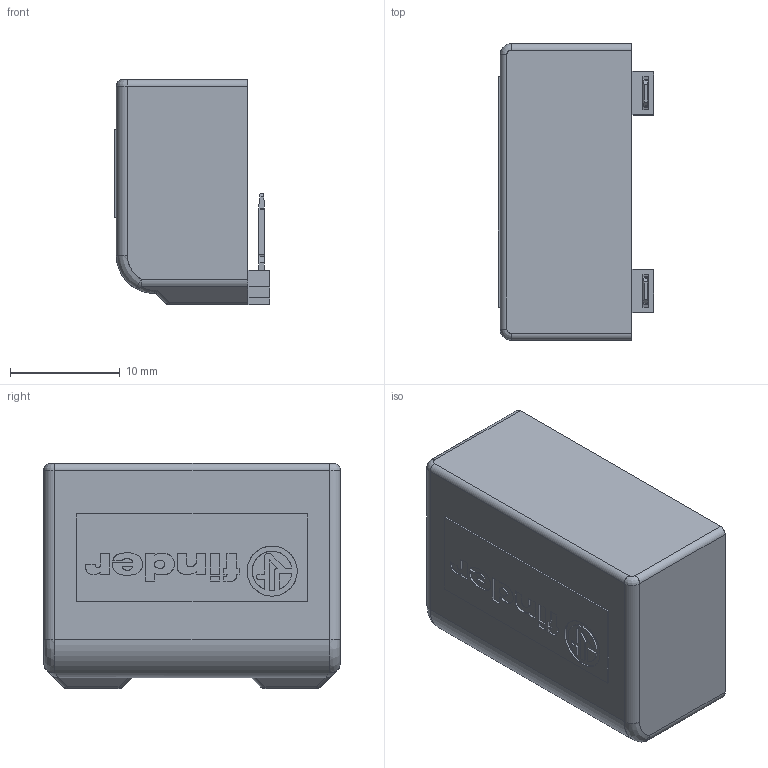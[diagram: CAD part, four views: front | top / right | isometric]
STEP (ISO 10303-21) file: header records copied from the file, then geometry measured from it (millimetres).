
FILE_DESCRIPTION(('STEP AP214'),'2;1');
FILE_NAME('Modulino 27_00 --- skin.stp','2010-06-01T11:59:52',(''),(''),'2007.1.106','THINKDESIGN','');
FILE_SCHEMA(('AUTOMOTIVE_DESIGN'));
Length unit declared in the file: millimetre
Products named in the file (1): None
Bounding box: 14.2 x 27 x 20.5 mm (x, y, z)
Surface area: 2373 mm2 (no closed solid volume)
Topology: 0 solids, 0 shells, 218 faces, 1160 edges, 1154 vertices
Faces by surface type: plane 144, bspline 46, cylinder 28
Entity records: 13145 total; most frequent: CARTESIAN_POINT 4987, DIRECTION 1306, COMPOSITE_CURVE_SEGMENT 1154, TRIMMED_CURVE 912, VECTOR 862, LINE 862, AXIS2_PLACEMENT_3D 222, OUTER_BOUNDARY_CURVE 218
